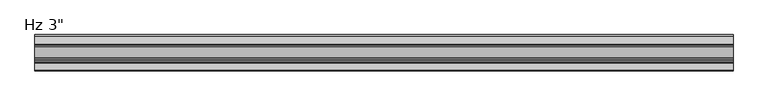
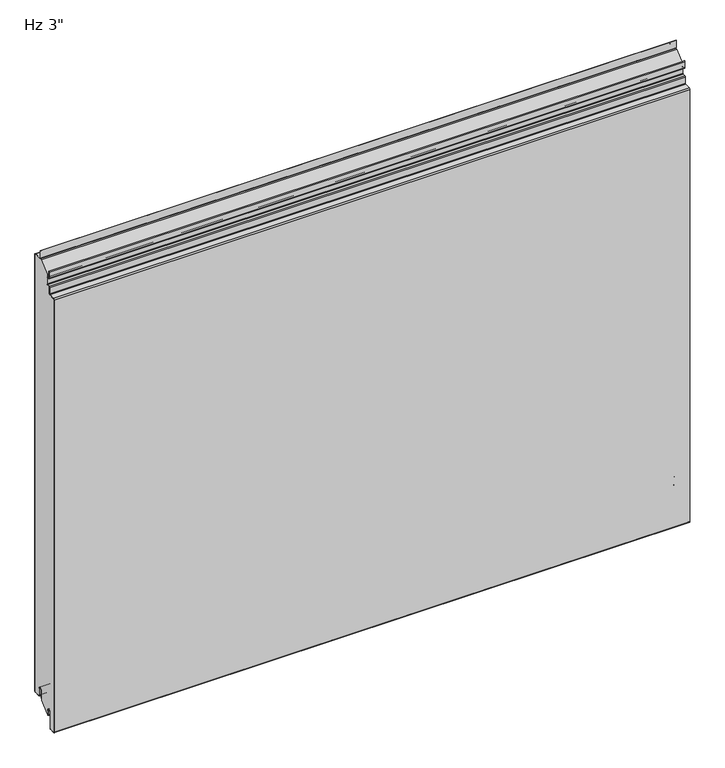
"""IFC4 building model written with IfcOpenShell, lengths in millimetres: plate geometry."""

from ifc_helpers import new_model, si_unit, point, frame, frame_2d, origin, place, context, project, spatial, polyline, circle_curve, ellipse_curve, trimmed, segment, composite_curve, outline, extrude, source, transform, mapped, element, save
from ifc_brep_helpers import plane_surface, cylinder_surface, revolved_surface, extruded_surface, advanced_brep


def plate_cbdb335c(model_context):
    return source(origin(), model_context, "Body", "SolidModel", [
        extrude(outline(composite_curve([segment(trimmed(circle_curve(frame_2d((-21.43125, 19.05)), 4.96875), [point((-16.4625, 19.05))], [point((-26.4, 19.05))], True, "CARTESIAN"), True, "CONTINUOUS"), segment(polyline([(-26.4, 19.05), (-26.4, -3.1323422), (-49.2157227, -23.01875), (-50.8, -23.01875), (-50.8, -13.5080174), (-51.59375, -13.5080174), (-51.3875, -11.9205174)]), True, "CONTINUOUS"), segment(trimmed(circle_curve(frame_2d((-56.35625, -11.9205174)), 4.96875), [point((-51.3875, -11.9205174))], [point((-61.325, -11.9205174))], True, "CARTESIAN"), True, "CONTINUOUS"), segment(polyline([(-61.325, -11.9205174), (-61.325, -50.1038221)]), True, "CONTINUOUS"), segment(trimmed(circle_curve(frame_2d((-62.70625, -50.1038221)), 1.38125), [point((-61.325, -50.1038221))], [point((-62.633961, -51.4831791))], False, "CARTESIAN"), True, "CONTINUOUS"), segment(polyline([(-62.633961, -51.4831791), (-73.746461, -52.0655606)]), True, "CONTINUOUS"), segment(trimmed(circle_curve(frame_2d((-73.81875, -50.6862035)), 1.38125), [point((-73.746461, -52.0655606))], [point((-75.2, -50.6862035))], False, "CARTESIAN"), True, "CONTINUOUS"), segment(polyline([(-75.2, -50.6862035), (-75.2, 998.6447607)]), True, "CONTINUOUS"), segment(trimmed(circle_curve(frame_2d((-73.81875, 998.6447607)), 1.38125), [point((-75.2, 998.6447607))], [point((-73.891039, 1000.0241177))], False, "CARTESIAN"), True, "CONTINUOUS"), segment(polyline([(-73.891039, 1000.0241177), (-60.1895807, 1000.7421807)]), True, "CONTINUOUS"), segment(trimmed(circle_curve(frame_2d((-60.325, 1003.3261347)), 2.5875), [point((-60.1895807, 1000.7421807))], [point((-57.7375, 1003.3261347))], True, "CARTESIAN"), True, "CONTINUOUS"), segment(polyline([(-57.7375, 1003.3261347), (-57.7375, 1017.4824411)]), True, "CONTINUOUS"), segment(trimmed(circle_curve(frame_2d((-56.35625, 1017.4824411)), 1.38125), [point((-57.7375, 1017.4824411))], [point((-56.428539, 1018.8617981))], False, "CARTESIAN"), True, "CONTINUOUS"), segment(polyline([(-56.428539, 1018.8617981), (-50.6645807, 1019.1638744)]), True, "CONTINUOUS"), segment(trimmed(circle_curve(frame_2d((-50.8, 1021.7478283)), 2.5875), [point((-50.6645807, 1019.1638744))], [point((-48.2125, 1021.7478283))], True, "CARTESIAN"), True, "CONTINUOUS"), segment(polyline([(-48.2125, 1021.7478283), (-48.2125, 1044.1892934), (-24.9057308, 1065.00625), (-2.38125, 1065.00625)]), True, "CONTINUOUS"), segment(trimmed(circle_curve(frame_2d((-2.38125, 1063.625)), 1.38125), [point((-2.38125, 1065.00625))], [point((-1.0, 1063.625))], False, "CARTESIAN"), True, "CONTINUOUS"), segment(polyline([(-1.0, 1063.625), (-1.0, 3.175)]), True, "CONTINUOUS"), segment(trimmed(circle_curve(frame_2d((-2.38125, 3.175)), 1.38125), [point((-1.0, 3.175))], [point((-2.38125, 1.79375))], False, "CARTESIAN"), True, "CONTINUOUS"), segment(polyline([(-2.38125, 1.79375), (-15.08125, 1.79375)]), True, "CONTINUOUS"), segment(trimmed(circle_curve(frame_2d((-15.08125, 3.175)), 1.38125), [point((-15.08125, 1.79375))], [point((-16.4625, 3.175))], False, "CARTESIAN"), True, "CONTINUOUS"), segment(polyline([(-16.4625, 3.175), (-16.4625, 19.05)]), True, "CONTINUOUS")], self_intersect=False)), frame((-730.0, 0.0, 0.0), z_axis=(1.0, 0.0, 0.0), x_axis=(0.0, 1.0, 0.0)), (0.0, 0.0, 1.0), 1460.0),
        extrude(outline(composite_curve([segment(polyline([(-25.4, 0.79375), (-26.4, 0.79375), (-26.4, 19.05)]), True, "CONTINUOUS"), segment(trimmed(circle_curve(frame_2d((-21.43125, 19.05)), 4.96875), [point((-26.4, 19.05))], [point((-16.4625, 19.05))], False, "CARTESIAN"), True, "CONTINUOUS"), segment(polyline([(-16.4625, 19.05), (-16.4625, 3.175)]), True, "CONTINUOUS"), segment(trimmed(circle_curve(frame_2d((-15.08125, 3.175)), 1.38125), [point((-16.4625, 3.175))], [point((-15.08125, 1.79375))], True, "CARTESIAN"), True, "CONTINUOUS"), segment(polyline([(-15.08125, 1.79375), (-2.38125, 1.79375)]), True, "CONTINUOUS"), segment(trimmed(circle_curve(frame_2d((-2.38125, 3.175)), 1.38125), [point((-2.38125, 1.79375))], [point((-1.0, 3.175))], True, "CARTESIAN"), True, "CONTINUOUS"), segment(polyline([(-1.0, 3.175), (-1.0, 1063.625)]), True, "CONTINUOUS"), segment(trimmed(circle_curve(frame_2d((-2.38125, 1063.625)), 1.38125), [point((-1.0, 1063.625))], [point((-2.38125, 1065.00625))], True, "CARTESIAN"), True, "CONTINUOUS"), segment(polyline([(-2.38125, 1065.00625), (-19.446875, 1065.00625)]), True, "CONTINUOUS"), segment(trimmed(circle_curve(frame_2d((-19.446875, 1067.59375)), 2.5875), [point((-19.446875, 1065.00625))], [point((-22.034375, 1067.59375))], False, "CARTESIAN"), True, "CONTINUOUS"), segment(polyline([(-22.034375, 1067.59375), (-22.034375, 1085.05625), (-21.034375, 1085.05625), (-21.034375, 1067.59375)]), True, "CONTINUOUS"), segment(trimmed(circle_curve(frame_2d((-19.446875, 1067.59375)), 1.5875), [point((-21.034375, 1067.59375))], [point((-19.446875, 1066.00625))], True, "CARTESIAN"), True, "CONTINUOUS"), segment(polyline([(-19.446875, 1066.00625), (-2.38125, 1066.00625)]), True, "CONTINUOUS"), segment(trimmed(circle_curve(frame_2d((-2.38125, 1063.625)), 2.38125), [point((-2.38125, 1066.00625))], [point((0.0, 1063.625))], False, "CARTESIAN"), True, "CONTINUOUS"), segment(polyline([(0.0, 1063.625), (0.0, 3.175)]), True, "CONTINUOUS"), segment(trimmed(circle_curve(frame_2d((-2.38125, 3.175)), 2.38125), [point((0.0, 3.175))], [point((-2.38125, 0.79375))], False, "CARTESIAN"), True, "CONTINUOUS"), segment(polyline([(-2.38125, 0.79375), (-15.08125, 0.79375)]), True, "CONTINUOUS"), segment(trimmed(circle_curve(frame_2d((-15.08125, 3.175)), 2.38125), [point((-15.08125, 0.79375))], [point((-17.4625, 3.175))], False, "CARTESIAN"), True, "CONTINUOUS"), segment(polyline([(-17.4625, 3.175), (-17.4625, 19.05)]), True, "CONTINUOUS"), segment(trimmed(circle_curve(frame_2d((-21.43125, 19.05)), 3.96875), [point((-17.4625, 19.05))], [point((-25.4, 19.05))], True, "CARTESIAN"), True, "CONTINUOUS"), segment(polyline([(-25.4, 19.05), (-25.4, 0.79375)]), True, "CONTINUOUS")], self_intersect=False)), frame((-730.0, 0.0, 0.0), z_axis=(1.0, 0.0, 0.0), x_axis=(0.0, 1.0, 0.0)), (0.0, 0.0, 1.0), 1460.0),
        advanced_brep(
        [(-730.0, -50.8, -23.2314549), (-730.0, -52.3875, -23.2314549), (-730.0, -52.3875, -11.9205174), (-730.0, -60.325, -11.9205174), (-730.0, -60.325, -50.1038221), (-730.0, -62.581625, -52.4818086), (-730.0, -73.694125, -53.0641901), (-730.0, -76.2, -50.6862035), (-730.0, -76.2, 998.6447607), (-730.0, -73.943375, 1001.0227473), (-730.0, -60.2419167, 1001.7408103), (-730.0, -58.7375, 1003.3261347), (-730.0, -58.7375, 1017.4824411), (-730.0, -56.480875, 1019.8604276), (-730.0, -50.7169167, 1020.1625039), (-730.0, -49.2125, 1021.7478283), (-730.0, -49.2125, 1036.6232326), (-730.0, -50.8, 1038.2107326), (-730.0, -54.9671875, 1038.2107326), (-730.0, -57.3484375, 1040.5919826), (-730.0, -57.3484375, 1055.0836032), (-730.0, -55.5546875, 1055.0836032), (-730.0, -55.5546875, 1045.3544826), (-730.0, -56.3484375, 1045.3544826), (-730.0, -56.3484375, 1040.5919826), (-730.0, -54.9671875, 1039.2107326), (-730.0, -50.8, 1039.2107326), (-730.0, -48.2125, 1036.6232326), (-730.0, -48.2125, 1021.7478283), (-730.0, -50.6645807, 1019.1638744), (-730.0, -56.428539, 1018.8617981), (-730.0, -57.7375, 1017.4824411), (-730.0, -57.7375, 1003.3261347), (-730.0, -60.1895807, 1000.7421807), (-730.0, -73.891039, 1000.0241177), (-730.0, -75.2, 998.6447607), (-730.0, -75.2, -50.6862035), (-730.0, -73.746461, -52.0655606), (-730.0, -62.633961, -51.4831791), (-730.0, -61.325, -50.1038221), (-730.0, -61.325, -11.9205174), (-730.0, -51.3875, -11.9205174), (-730.0, -51.59375, -13.5080174), (-730.0, -50.8, -13.5080174), (730.0, -50.8, -23.2314549), (730.0, -50.8, -13.5080174), (730.0, -51.59375, -13.5080174), (730.0, -51.3875, -11.9205174), (730.0, -61.325, -11.9205174), (730.0, -61.325, -50.1038221), (730.0, -62.633961, -51.4831791), (730.0, -73.746461, -52.0655606), (730.0, -75.2, -50.6862035), (730.0, -75.2, 998.6447607), (730.0, -73.891039, 1000.0241177), (730.0, -60.1895807, 1000.7421807), (730.0, -57.7375, 1003.3261347), (730.0, -57.7375, 1017.4824411), (730.0, -56.428539, 1018.8617981), (730.0, -50.6645807, 1019.1638744), (730.0, -48.2125, 1021.7478283), (730.0, -48.2125, 1036.6232326), (730.0, -50.8, 1039.2107326), (730.0, -54.9671875, 1039.2107326), (730.0, -56.3484375, 1040.5919826), (730.0, -56.3484375, 1045.3544826), (730.0, -55.5546875, 1045.3544826), (730.0, -55.5546875, 1055.0836032), (730.0, -57.3484375, 1055.0836032), (730.0, -57.3484375, 1040.5919826), (730.0, -54.9671875, 1038.2107326), (730.0, -50.8, 1038.2107326), (730.0, -49.2125, 1036.6232326), (730.0, -49.2125, 1021.7478283), (730.0, -50.7169167, 1020.1625039), (730.0, -56.480875, 1019.8604276), (730.0, -58.7375, 1017.4824411), (730.0, -58.7375, 1003.3261347), (730.0, -60.2419167, 1001.7408103), (730.0, -73.943375, 1001.0227473), (730.0, -76.2, 998.6447607), (730.0, -76.2, -50.6862035), (730.0, -73.694125, -53.0641901), (730.0, -62.581625, -52.4818086), (730.0, -60.325, -50.1038221), (730.0, -60.325, -11.9205174), (730.0, -52.3875, -11.9205174), (730.0, -52.3875, -23.2314549)],
        [
            (0, 1, circle_curve(frame((-730.0, -51.59375, -23.2314549), z_axis=(-1.0, 0.0, 0.0), x_axis=(0.0, 0.0, -1.0)), 0.79375)),
            (1, 2),
            (2, 3, circle_curve(frame((-730.0, -56.35625, -11.9205174), z_axis=(1.0, 0.0, 0.0), x_axis=(0.0, 0.0, -1.0)), 3.96875)),
            (3, 4),
            (4, 5, circle_curve(frame((-730.0, -62.70625, -50.1038221), z_axis=(-1.0, 0.0, 0.0), x_axis=(0.0, 0.0, -1.0)), 2.38125)),
            (5, 6),
            (6, 7, circle_curve(frame((-730.0, -73.81875, -50.6862035), z_axis=(-1.0, 0.0, 0.0), x_axis=(0.0, 0.0, -1.0)), 2.38125)),
            (7, 8),
            (8, 9, circle_curve(frame((-730.0, -73.81875, 998.6447607), z_axis=(-1.0, 0.0, 0.0), x_axis=(0.0, 0.0, -1.0)), 2.38125)),
            (9, 10),
            (10, 11, circle_curve(frame((-730.0, -60.325, 1003.3261347), z_axis=(1.0, 0.0, 0.0), x_axis=(0.0, 0.0, -1.0)), 1.5875)),
            (11, 12),
            (12, 13, circle_curve(frame((-730.0, -56.35625, 1017.4824411), z_axis=(-1.0, 0.0, 0.0), x_axis=(0.0, 0.0, -1.0)), 2.38125)),
            (13, 14),
            (14, 15, circle_curve(frame((-730.0, -50.8, 1021.7478283), z_axis=(1.0, 0.0, 0.0), x_axis=(0.0, 0.0, -1.0)), 1.5875)),
            (15, 16),
            (16, 17, circle_curve(frame((-730.0, -50.8, 1036.6232326), z_axis=(1.0, 0.0, 0.0), x_axis=(0.0, 0.0, -1.0)), 1.5875)),
            (17, 18),
            (18, 19, circle_curve(frame((-730.0, -54.9671875, 1040.5919826), z_axis=(-1.0, 0.0, 0.0), x_axis=(0.0, 0.0, -1.0)), 2.38125)),
            (19, 20),
            (20, 21, ellipse_curve(frame((-730.0, -56.4515625, 1055.0836032), z_axis=(-1.0, 0.0, 0.0), x_axis=(0.0, 1.0, 0.0)), 0.896875, 0.7852275)),
            (21, 22),
            (22, 23),
            (23, 24),
            (24, 25, circle_curve(frame((-730.0, -54.9671875, 1040.5919826), z_axis=(1.0, 0.0, 0.0), x_axis=(0.0, 0.0, -1.0)), 1.38125)),
            (25, 26),
            (26, 27, circle_curve(frame((-730.0, -50.8, 1036.6232326), z_axis=(-1.0, 0.0, 0.0), x_axis=(0.0, 0.0, -1.0)), 2.5875)),
            (27, 28),
            (28, 29, circle_curve(frame((-730.0, -50.8, 1021.7478283), z_axis=(-1.0, 0.0, 0.0), x_axis=(0.0, 0.0, -1.0)), 2.5875)),
            (29, 30),
            (30, 31, circle_curve(frame((-730.0, -56.35625, 1017.4824411), z_axis=(1.0, 0.0, 0.0), x_axis=(0.0, 0.0, -1.0)), 1.38125)),
            (31, 32),
            (32, 33, circle_curve(frame((-730.0, -60.325, 1003.3261347), z_axis=(-1.0, 0.0, 0.0), x_axis=(0.0, 0.0, -1.0)), 2.5875)),
            (33, 34),
            (34, 35, circle_curve(frame((-730.0, -73.81875, 998.6447607), z_axis=(1.0, 0.0, 0.0), x_axis=(0.0, 0.0, -1.0)), 1.38125)),
            (35, 36),
            (36, 37, circle_curve(frame((-730.0, -73.81875, -50.6862035), z_axis=(1.0, 0.0, 0.0), x_axis=(0.0, 0.0, -1.0)), 1.38125)),
            (37, 38),
            (38, 39, circle_curve(frame((-730.0, -62.70625, -50.1038221), z_axis=(1.0, 0.0, 0.0), x_axis=(0.0, 0.0, -1.0)), 1.38125)),
            (39, 40),
            (40, 41, circle_curve(frame((-730.0, -56.35625, -11.9205174), z_axis=(-1.0, 0.0, 0.0), x_axis=(0.0, 0.0, -1.0)), 4.96875)),
            (41, 42),
            (42, 43),
            (43, 0),
            (44, 45),
            (45, 46),
            (46, 47),
            (47, 48, circle_curve(frame((730.0, -56.35625, -11.9205174), z_axis=(1.0, 0.0, 0.0), x_axis=(0.0, 0.0, -1.0)), 4.96875)),
            (48, 49),
            (49, 50, circle_curve(frame((730.0, -62.70625, -50.1038221), z_axis=(-1.0, 0.0, 0.0), x_axis=(0.0, 0.0, -1.0)), 1.38125)),
            (50, 51),
            (51, 52, circle_curve(frame((730.0, -73.81875, -50.6862035), z_axis=(-1.0, 0.0, 0.0), x_axis=(0.0, 0.0, -1.0)), 1.38125)),
            (52, 53),
            (53, 54, circle_curve(frame((730.0, -73.81875, 998.6447607), z_axis=(-1.0, 0.0, 0.0), x_axis=(0.0, 0.0, -1.0)), 1.38125)),
            (54, 55),
            (55, 56, circle_curve(frame((730.0, -60.325, 1003.3261347), z_axis=(1.0, 0.0, 0.0), x_axis=(0.0, 0.0, -1.0)), 2.5875)),
            (56, 57),
            (57, 58, circle_curve(frame((730.0, -56.35625, 1017.4824411), z_axis=(-1.0, 0.0, 0.0), x_axis=(0.0, 0.0, -1.0)), 1.38125)),
            (58, 59),
            (59, 60, circle_curve(frame((730.0, -50.8, 1021.7478283), z_axis=(1.0, 0.0, 0.0), x_axis=(0.0, 0.0, -1.0)), 2.5875)),
            (60, 61),
            (61, 62, circle_curve(frame((730.0, -50.8, 1036.6232326), z_axis=(1.0, 0.0, 0.0), x_axis=(0.0, 0.0, -1.0)), 2.5875)),
            (62, 63),
            (63, 64, circle_curve(frame((730.0, -54.9671875, 1040.5919826), z_axis=(-1.0, 0.0, 0.0), x_axis=(0.0, 0.0, -1.0)), 1.38125)),
            (64, 65),
            (65, 66),
            (66, 67),
            (67, 68, ellipse_curve(frame((730.0, -56.4515625, 1055.0836032), z_axis=(1.0, 0.0, 0.0), x_axis=(0.0, 1.0, 0.0)), 0.896875, 0.7852275)),
            (68, 69),
            (69, 70, circle_curve(frame((730.0, -54.9671875, 1040.5919826), z_axis=(1.0, 0.0, 0.0), x_axis=(0.0, 0.0, -1.0)), 2.38125)),
            (70, 71),
            (71, 72, circle_curve(frame((730.0, -50.8, 1036.6232326), z_axis=(-1.0, 0.0, 0.0), x_axis=(0.0, 0.0, -1.0)), 1.5875)),
            (72, 73),
            (73, 74, circle_curve(frame((730.0, -50.8, 1021.7478283), z_axis=(-1.0, 0.0, 0.0), x_axis=(0.0, 0.0, -1.0)), 1.5875)),
            (74, 75),
            (75, 76, circle_curve(frame((730.0, -56.35625, 1017.4824411), z_axis=(1.0, 0.0, 0.0), x_axis=(0.0, 0.0, -1.0)), 2.38125)),
            (76, 77),
            (77, 78, circle_curve(frame((730.0, -60.325, 1003.3261347), z_axis=(-1.0, 0.0, 0.0), x_axis=(0.0, 0.0, -1.0)), 1.5875)),
            (78, 79),
            (79, 80, circle_curve(frame((730.0, -73.81875, 998.6447607), z_axis=(1.0, 0.0, 0.0), x_axis=(0.0, 0.0, -1.0)), 2.38125)),
            (80, 81),
            (81, 82, circle_curve(frame((730.0, -73.81875, -50.6862035), z_axis=(1.0, 0.0, 0.0), x_axis=(0.0, 0.0, -1.0)), 2.38125)),
            (82, 83),
            (83, 84, circle_curve(frame((730.0, -62.70625, -50.1038221), z_axis=(1.0, 0.0, 0.0), x_axis=(0.0, 0.0, -1.0)), 2.38125)),
            (84, 85),
            (85, 86, circle_curve(frame((730.0, -56.35625, -11.9205174), z_axis=(-1.0, 0.0, 0.0), x_axis=(0.0, 0.0, -1.0)), 3.96875)),
            (86, 87),
            (87, 44, circle_curve(frame((730.0, -51.59375, -23.2314549), z_axis=(1.0, 0.0, 0.0), x_axis=(0.0, 0.0, -1.0)), 0.79375)),
            (36, 52),
            (51, 37),
            (50, 38),
            (49, 39),
            (48, 40),
            (47, 41),
            (42, 46),
            (45, 43),
            (22, 66),
            (65, 23),
            (21, 67),
            (20, 68),
            (34, 54),
            (53, 35),
            (32, 56),
            (55, 33),
            (30, 58),
            (57, 31),
            (28, 60),
            (59, 29),
            (24, 64),
            (63, 25),
            (26, 62),
            (61, 27),
            (19, 69),
            (17, 71),
            (70, 18),
            (15, 73),
            (72, 16),
            (13, 75),
            (74, 14),
            (11, 77),
            (76, 12),
            (9, 79),
            (78, 10),
            (7, 81),
            (80, 8),
            (5, 83),
            (82, 6),
            (3, 85),
            (84, 4),
            (1, 87),
            (86, 2),
            (44, 0),
        ],
        [
            plane_surface(frame((-730.0, -76.2, 533.4), z_axis=(-1.0, 0.0, 0.0), x_axis=(0.0, -1.0, 0.0))),
            plane_surface(frame((730.0, -76.2, 533.4), z_axis=(1.0, 0.0, 0.0), x_axis=(0.0, -1.0, 0.0))),
            revolved_surface(polyline([(730.0, -73.81875, -52.0674535), (-730.0, -73.81875, -52.0674535)]), (-730.0, -73.81875, -50.6862035), (1.0, 0.0, 0.0)),
            plane_surface(frame((-730.0, -62.633961, -51.4831791), z_axis=(0.0, -0.05233595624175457, 0.9986295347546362), x_axis=(1.0, 0.0, 0.0))),
            revolved_surface(polyline([(730.0, -62.70625, -51.485072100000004), (-730.0, -62.70625, -51.485072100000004)]), (-730.0, -62.70625, -50.1038221), (1.0, 0.0, 0.0)),
            plane_surface(frame((-730.0, -61.325, -11.9205174), z_axis=(0.0, -1.0, 0.0), x_axis=(1.0, 0.0, 0.0))),
            cylinder_surface(frame((-730.0, -56.35625, -11.9205174), z_axis=(-1.0, 0.0, 0.0), x_axis=(0.0, 0.0, -1.0)), 4.96875),
            plane_surface(frame((-730.0, -50.8, -13.5080174), z_axis=(0.0, 0.0, 1.0), x_axis=(1.0, 0.0, 0.0))),
            plane_surface(frame((-730.0, -51.59375, -13.5080174), z_axis=(0.0, 0.9916655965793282, -0.1288384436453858), x_axis=(1.0, 0.0, 0.0))),
            plane_surface(frame((-730.0, -56.3484375, 1045.3544826), z_axis=(0.0, 0.0, -1.0), x_axis=(1.0, 0.0, 0.0))),
            plane_surface(frame((-730.0, -55.5546875, 1045.3544826), z_axis=(0.0, 1.0, 0.0), x_axis=(1.0, 0.0, 0.0))),
            extruded_surface(trimmed(ellipse_curve(frame((-730.0, -56.4515625, 1055.0836032), z_axis=(1.0, 0.0, 0.0), x_axis=(0.0, 1.0, 0.0)), 0.896875, 0.7852275), [point((-730.0, -55.5546875, 1055.0836032))], [point((-730.0, -57.3484375, 1055.0836032))], True, "CARTESIAN"), (1460.0, 0.0, 0.0), 1460.0),
            revolved_surface(polyline([(730.0, -73.81875, 997.2635107), (-730.0, -73.81875, 997.2635107)]), (-730.0, -73.81875, 998.6447607), (1.0, 0.0, 0.0)),
            cylinder_surface(frame((-730.0, -60.325, 1003.3261347), z_axis=(-1.0, 0.0, 0.0), x_axis=(0.0, 0.0, -1.0)), 2.5875),
            plane_surface(frame((-730.0, -73.891039, 1000.0241177), z_axis=(0.0, 0.05233595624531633, -0.9986295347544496), x_axis=(1.0, 0.0, 0.0))),
            plane_surface(frame((-730.0, -75.2, -50.6862035), z_axis=(0.0, 1.0, 0.0), x_axis=(1.0, 0.0, 0.0))),
            revolved_surface(polyline([(730.0, -56.35625, 1016.1011910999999), (-730.0, -56.35625, 1016.1011910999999)]), (-730.0, -56.35625, 1017.4824411), (1.0, 0.0, 0.0)),
            cylinder_surface(frame((-730.0, -50.8, 1021.7478283), z_axis=(-1.0, 0.0, 0.0), x_axis=(0.0, 0.0, -1.0)), 2.5875),
            plane_surface(frame((-730.0, -56.428539, 1018.8617981), z_axis=(0.0, 0.052335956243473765, -0.9986295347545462), x_axis=(1.0, 0.0, 0.0))),
            plane_surface(frame((-730.0, -57.7375, 1003.3261347), z_axis=(0.0, 1.0, 0.0), x_axis=(1.0, 0.0, 0.0))),
            revolved_surface(polyline([(730.0, -54.9671875, 1039.2107326), (-730.0, -54.9671875, 1039.2107326)]), (-730.0, -54.9671875, 1040.5919826), (1.0, 0.0, 0.0)),
            cylinder_surface(frame((-730.0, -50.8, 1036.6232326), z_axis=(-1.0, 0.0, 0.0), x_axis=(0.0, 0.0, -1.0)), 2.5875),
            plane_surface(frame((-730.0, -50.8, 1039.2107326), z_axis=(0.0, 0.0, 1.0), x_axis=(1.0, 0.0, 0.0))),
            plane_surface(frame((-730.0, -56.3484375, 1040.5919826), z_axis=(0.0, 1.0, 0.0), x_axis=(1.0, 0.0, 0.0))),
            plane_surface(frame((-730.0, -57.3484375, 1055.0836032), z_axis=(0.0, -1.0, 0.0), x_axis=(1.0, 0.0, 0.0))),
            plane_surface(frame((-730.0, -54.9671875, 1038.2107326), z_axis=(0.0, 0.0, -1.0), x_axis=(1.0, 0.0, 0.0))),
            cylinder_surface(frame((-730.0, -54.9671875, 1040.5919826), z_axis=(-1.0, 0.0, 0.0), x_axis=(0.0, 0.0, -1.0)), 2.38125),
            plane_surface(frame((-730.0, -48.2125, 1021.7478283), z_axis=(0.0, 1.0, 0.0), x_axis=(1.0, 0.0, 0.0))),
            plane_surface(frame((-730.0, -49.2125, 1036.6232326), z_axis=(0.0, -1.0, 0.0), x_axis=(1.0, 0.0, 0.0))),
            plane_surface(frame((-730.0, -50.7169167, 1020.1625039), z_axis=(0.0, -0.05233595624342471, 0.9986295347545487), x_axis=(1.0, 0.0, 0.0))),
            revolved_surface(polyline([(730.0, -50.8, 1020.1603283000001), (-730.0, -50.8, 1020.1603283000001)]), (-730.0, -50.8, 1021.7478283), (1.0, 0.0, 0.0)),
            revolved_surface(polyline([(730.0, -50.8, 1035.0357325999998), (-730.0, -50.8, 1035.0357325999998)]), (-730.0, -50.8, 1036.6232326), (1.0, 0.0, 0.0)),
            plane_surface(frame((-730.0, -58.7375, 1017.4824411), z_axis=(0.0, -1.0, 0.0), x_axis=(1.0, 0.0, 0.0))),
            plane_surface(frame((-730.0, -60.2419167, 1001.7408103), z_axis=(0.0, -0.05233595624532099, 0.9986295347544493), x_axis=(1.0, 0.0, 0.0))),
            revolved_surface(polyline([(730.0, -60.325, 1001.7386347), (-730.0, -60.325, 1001.7386347)]), (-730.0, -60.325, 1003.3261347), (1.0, 0.0, 0.0)),
            cylinder_surface(frame((-730.0, -56.35625, 1017.4824411), z_axis=(-1.0, 0.0, 0.0), x_axis=(0.0, 0.0, -1.0)), 2.38125),
            plane_surface(frame((-730.0, -76.2, 998.6447607), z_axis=(0.0, -1.0, 0.0), x_axis=(1.0, 0.0, 0.0))),
            plane_surface(frame((-730.0, -73.694125, -53.0641901), z_axis=(0.0, 0.05233595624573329, -0.9986295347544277), x_axis=(1.0, 0.0, 0.0))),
            cylinder_surface(frame((-730.0, -73.81875, -50.6862035), z_axis=(-1.0, 0.0, 0.0), x_axis=(0.0, 0.0, -1.0)), 2.38125),
            cylinder_surface(frame((-730.0, -73.81875, 998.6447607), z_axis=(-1.0, 0.0, 0.0), x_axis=(0.0, 0.0, -1.0)), 2.38125),
            plane_surface(frame((-730.0, -60.325, -50.1038221), z_axis=(0.0, 1.0, 0.0), x_axis=(1.0, 0.0, 0.0))),
            plane_surface(frame((-730.0, -52.3875, -11.9205174), z_axis=(0.0, -1.0, 0.0), x_axis=(1.0, 0.0, 0.0))),
            revolved_surface(polyline([(730.0, -56.35625, -15.8892674), (-730.0, -56.35625, -15.8892674)]), (-730.0, -56.35625, -11.9205174), (1.0, 0.0, 0.0)),
            cylinder_surface(frame((-730.0, -62.70625, -50.1038221), z_axis=(-1.0, 0.0, 0.0), x_axis=(0.0, 0.0, -1.0)), 2.38125),
            plane_surface(frame((-730.0, -50.8, -23.2314549), z_axis=(0.0, 1.0, 0.0), x_axis=(1.0, 0.0, 0.0))),
            cylinder_surface(frame((-730.0, -51.59375, -23.2314549), z_axis=(-1.0, 0.0, 0.0), x_axis=(0.0, 0.0, -1.0)), 0.79375),
        ],
        [
            (0, [[1, 2, 3, 4, 5, 6, 7, 8, 9, 10, 11, 12, 13, 14, 15, 16, 17, 18, 19, 20, 21, 22, 23, 24, 25, 26, 27, 28, 29, 30, 31, 32, 33, 34, 35, 36, 37, 38, 39, 40, 41, 42, 43, 44]]),
            (1, [[45, 46, 47, 48, 49, 50, 51, 52, 53, 54, 55, 56, 57, 58, 59, 60, 61, 62, 63, 64, 65, 66, 67, 68, 69, 70, 71, 72, 73, 74, 75, 76, 77, 78, 79, 80, 81, 82, 83, 84, 85, 86, 87, 88]]),
            (2, [[89, -52, 90, -37]]),
            (3, [[-90, -51, 91, -38]]),
            (4, [[-91, -50, 92, -39]]),
            (5, [[-92, -49, 93, -40]]),
            (6, [[-93, -48, 94, -41]]),
            (7, [[95, -46, 96, -43]]),
            (8, [[-94, -47, -95, -42]]),
            (9, [[97, -66, 98, -23]]),
            (10, [[99, -67, -97, -22]]),
            (11, [[100, -68, -99, -21]]),
            (12, [[101, -54, 102, -35]]),
            (13, [[103, -56, 104, -33]]),
            (14, [[-104, -55, -101, -34]]),
            (15, [[-102, -53, -89, -36]]),
            (16, [[105, -58, 106, -31]]),
            (17, [[107, -60, 108, -29]]),
            (18, [[-108, -59, -105, -30]]),
            (19, [[-106, -57, -103, -32]]),
            (20, [[109, -64, 110, -25]]),
            (21, [[111, -62, 112, -27]]),
            (22, [[-110, -63, -111, -26]]),
            (23, [[-98, -65, -109, -24]]),
            (24, [[113, -69, -100, -20]]),
            (25, [[114, -71, 115, -18]]),
            (26, [[-115, -70, -113, -19]]),
            (27, [[-112, -61, -107, -28]]),
            (28, [[116, -73, 117, -16]]),
            (29, [[118, -75, 119, -14]]),
            (30, [[-119, -74, -116, -15]]),
            (31, [[-117, -72, -114, -17]]),
            (32, [[120, -77, 121, -12]]),
            (33, [[122, -79, 123, -10]]),
            (34, [[-123, -78, -120, -11]]),
            (35, [[-121, -76, -118, -13]]),
            (36, [[124, -81, 125, -8]]),
            (37, [[126, -83, 127, -6]]),
            (38, [[-127, -82, -124, -7]]),
            (39, [[-125, -80, -122, -9]]),
            (40, [[128, -85, 129, -4]]),
            (41, [[130, -87, 131, -2]]),
            (42, [[-131, -86, -128, -3]]),
            (43, [[-129, -84, -126, -5]]),
            (44, [[-96, -45, 132, -44]]),
            (45, [[-132, -88, -130, -1]]),
        ],
    ),
    ])


if __name__ == "__main__":
    model = new_model("IFC4")
    model_context = context("Model", 3, world=origin())
    ifc_project = project(units=[si_unit("LENGTHUNIT", "METRE", prefix="MILLI")], contexts=[model_context])
    site = spatial("IfcSite", under=ifc_project)
    building = spatial("IfcBuilding", under=site)
    placement = place(None, origin())
    plate_shape = plate_cbdb335c(model_context)
    element("IfcPlate", 1, ObjectType="KIP-42-DWHR-R19-CP-Hz-F : Hz 3\"", at=placement, inside=building, context=model_context, shape_type="MappedRepresentation", body=[
        mapped(plate_shape, transform((0.0, 0.0, 0.0), x_axis=(1.0, 0.0, 0.0), y_axis=(0.0, 1.0, 0.0), z_axis=(0.0, 0.0, 1.0))),
    ])
    save(model, "model.ifc")
